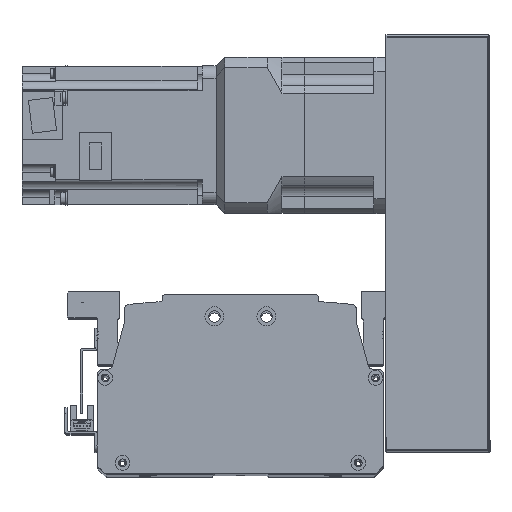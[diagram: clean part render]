
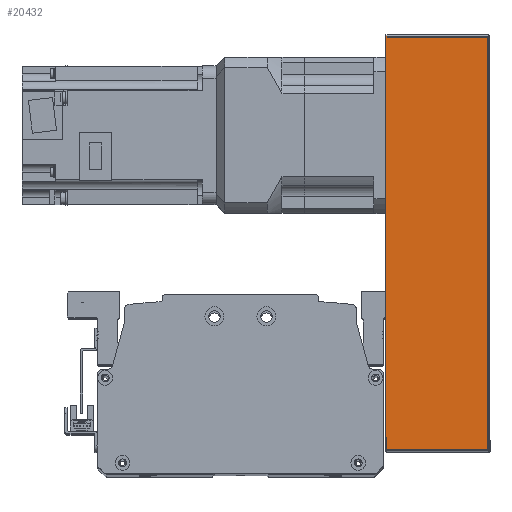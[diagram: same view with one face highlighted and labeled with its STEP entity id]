
A CAD part, top view. The second image highlights one B-rep face of the part: STEP entity #20432.
In plain terms, the highlighted planar face has unit normal (0, 0, 1) as drawn and (0, -1, 0) by its records, which use the part's own axes.
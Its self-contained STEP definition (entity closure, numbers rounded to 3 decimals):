
#548=PLANE('',#22244);
#1666=LINE('',#32401,#3326);
#1692=LINE('',#32497,#3352);
#1693=LINE('',#32505,#3353);
#1700=LINE('',#32530,#3360);
#3326=VECTOR('',#26327,10.);
#3352=VECTOR('',#26445,10.);
#3353=VECTOR('',#26456,10.);
#3360=VECTOR('',#26491,10.);
#5305=FACE_OUTER_BOUND('',#6693,.T.);
#6693=EDGE_LOOP('',(#16054,#16055,#16056,#16057));
#9503=VERTEX_POINT('',#32398);
#9504=VERTEX_POINT('',#32400);
#9528=VERTEX_POINT('',#32493);
#9529=VERTEX_POINT('',#32499);
#11834=EDGE_CURVE('',#9504,#9503,#1666,.T.);
#11884=EDGE_CURVE('',#9503,#9528,#1692,.T.);
#11888=EDGE_CURVE('',#9529,#9504,#1693,.T.);
#11901=EDGE_CURVE('',#9528,#9529,#1700,.T.);
#16054=ORIENTED_EDGE('',*,*,#11884,.T.);
#16055=ORIENTED_EDGE('',*,*,#11901,.T.);
#16056=ORIENTED_EDGE('',*,*,#11888,.T.);
#16057=ORIENTED_EDGE('',*,*,#11834,.T.);
#20432=ADVANCED_FACE('',(#5305),#548,.F.);
#22244=AXIS2_PLACEMENT_3D('',#32536,#26501,#26502);
#26327=DIRECTION('',(1.,0.,0.));
#26445=DIRECTION('',(0.,0.,1.));
#26456=DIRECTION('',(0.,0.,-1.));
#26491=DIRECTION('',(-1.,0.,0.));
#26501=DIRECTION('center_axis',(0.,1.,0.));
#26502=DIRECTION('ref_axis',(1.,0.,0.));
#32398=CARTESIAN_POINT('',(119.5,-51.,-30.));
#32400=CARTESIAN_POINT('',(-119.5,-51.,-30.));
#32401=CARTESIAN_POINT('',(120.5,-51.,-30.));
#32493=CARTESIAN_POINT('',(119.5,-51.,29.));
#32497=CARTESIAN_POINT('',(119.5,-51.,0.));
#32499=CARTESIAN_POINT('',(-119.5,-51.,29.));
#32505=CARTESIAN_POINT('',(-119.5,-51.,0.));
#32530=CARTESIAN_POINT('',(-60.25,-51.,29.));
#32536=CARTESIAN_POINT('Origin',(-120.5,-51.,0.));
